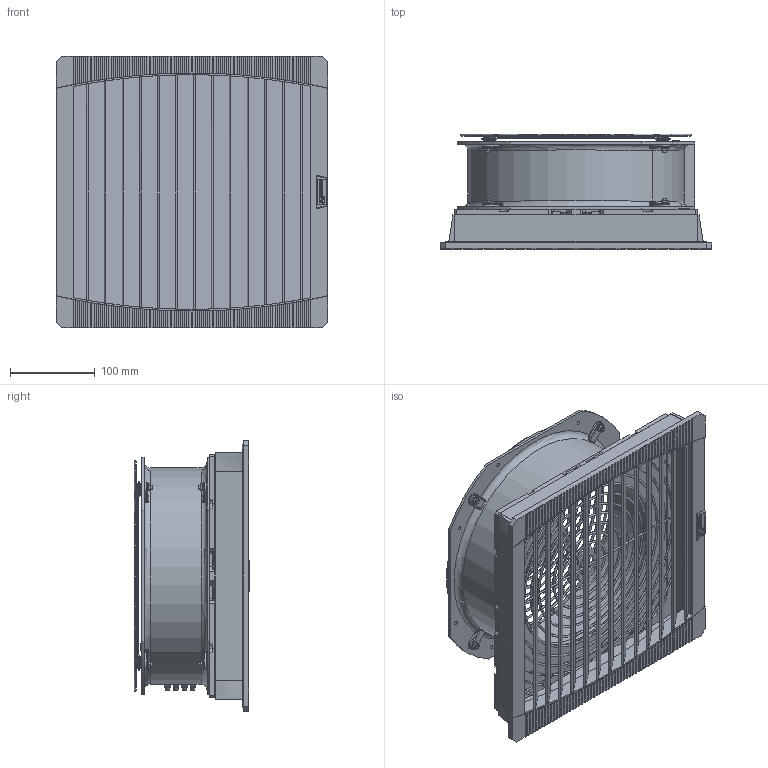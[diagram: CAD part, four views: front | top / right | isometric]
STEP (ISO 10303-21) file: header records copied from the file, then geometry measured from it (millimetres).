
FILE_DESCRIPTION (( 'STEP AP214' ), '1' );
FILE_NAME ('PF67000SL_230V_AP214.STEP', '2019-05-24T12:53:56', ( '' ), ( '' ), 'SwSTEP 2.0', 'SolidWorks 2017', '' );
FILE_SCHEMA (( 'AUTOMOTIVE_DESIGN' ));
Length unit declared in the file: millimetre
Products named in the file (12): Flachkopfschraube mit Kreutzschlitz - DIN EN ISO 7045_ISO 7045 - M4 x 8 - Z --- 8N; Hex Nut Style 1 GradeAB_Pfannenberg GmbH_Hexagon Nut ISO 4032 - M4 - D - N; Serrated Lock Washer 1_Pfannenberg GmbH_DIN 6798-A4.3; Plain Washer Large_Pfannenberg GmbH_Washer DIN 9021 - 5.3; Flachkopfschraube mit Kreutzschlitz - DIN EN ISO 7045_ISO 7045 - M4 x 16 - Z --- 16N; 011000001 EBM 09418-2-4039_005047030 - LZ27; Axial Lüfter Serie W2D250_010000000 W2D250 230V; FanSupport_PF65000SL; housing PF6x; 30162-013; cover PF6x; PF67000SL_230V_AP214
Assembly tree (36 placements, depth 2):
  PF67000SL_230V_AP214
    cover PF6x
    30162-013
    housing PF6x
    FanSupport_PF65000SL
    Axial Lüfter Serie W2D250_010000000 W2D250 230V
    011000001 EBM 09418-2-4039_005047030 - LZ27
    Flachkopfschraube mit Kreutzschlitz - DIN EN ISO 7045_ISO 7045 - M4 x 16 - Z --- 16N  x8
    Plain Washer Large_Pfannenberg GmbH_Washer DIN 9021 - 5.3  x4
    Serrated Lock Washer 1_Pfannenberg GmbH_DIN 6798-A4.3  x8
    Hex Nut Style 1 GradeAB_Pfannenberg GmbH_Hexagon Nut ISO 4032 - M4 - D - N  x8
    Flachkopfschraube mit Kreutzschlitz - DIN EN ISO 7045_ISO 7045 - M4 x 8 - Z --- 8N  x2
Bounding box: 320 x 136.24 x 320 mm (x, y, z)
Volume: 1337967.5 mm3; surface area: 911031.6 mm2
Topology: 46 solids, 46 shells, 3173 faces, 8671 edges, 5435 vertices
Faces by surface type: plane 1447, cylinder 782, bspline 450, torus 239, cone 235, sphere 20
Entity records: 93825 total; most frequent: CARTESIAN_POINT 34188, ORIENTED_EDGE 12710, DIRECTION 11019, EDGE_CURVE 6355, VERTEX_POINT 4093, AXIS2_PLACEMENT_3D 3900, LINE 3219, VECTOR 3219
